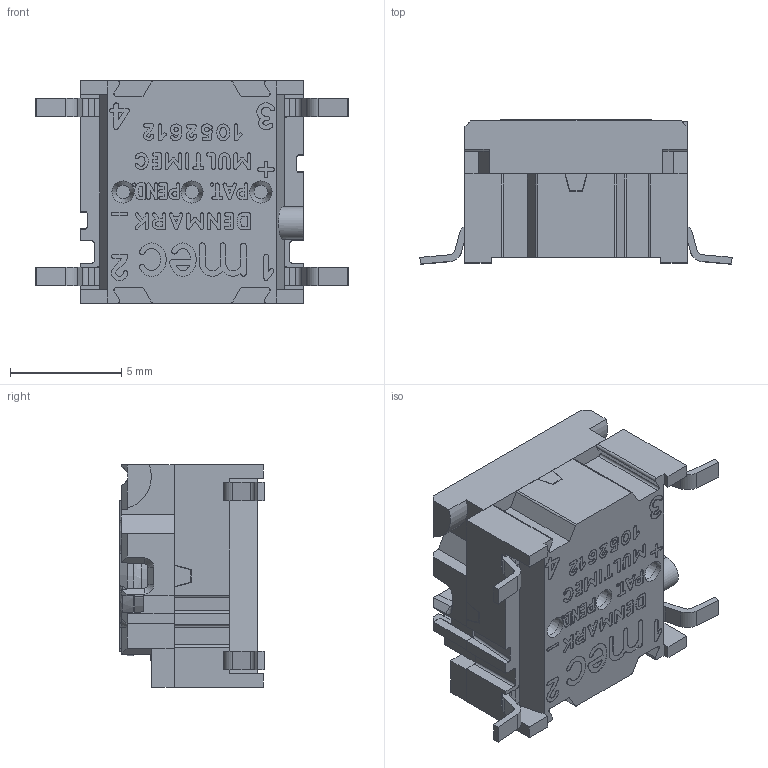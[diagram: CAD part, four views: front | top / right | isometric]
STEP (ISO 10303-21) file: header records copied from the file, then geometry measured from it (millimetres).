
FILE_DESCRIPTION((''),'2;1');
FILE_NAME('C:\Users\fd.MEC-AS\Desktop\Dan\5GSH9.stp','2012-10-17T15:55:01',('fd'),(''),'Autodesk Inventor 2012','Autodesk Inventor 2012','');
FILE_SCHEMA(('AUTOMOTIVE_DESIGN { 1 0 10303 214 1 1 1 1 }'));
Length unit declared in the file: millimetre
Products named in the file (9): 5GSH9; act; splåg; 26000-HT-hus-smd; 26000-ht-hus; 26120-smd-ben; 26120-terminal-midt; 26050-gummidome; 26100-metaldome
Assembly tree (11 placements, depth 3):
  5GSH9
    act
    splåg
    26000-HT-hus-smd
      26000-ht-hus
      26120-smd-ben  x4
      26120-terminal-midt
    26050-gummidome
    26100-metaldome
Bounding box: 14.05 x 6.5 x 10 mm (x, y, z)
Volume: 460.2 mm3; surface area: 1341.1 mm2
Topology: 11 solids, 11 shells, 1337 faces, 3681 edges, 2431 vertices
Faces by surface type: plane 729, cylinder 506, cone 53, torus 41, sphere 4, bspline 4
Full cylindrical faces by diameter (mm): 0.15 x2, 0.2 x1, 0.306 x1, 0.895 x1, 1 x3, 2.8 x1, 4.726 x1, 6.5 x1, 7.44 x1, 8.7 x1
Entity records: 42159 total; most frequent: CARTESIAN_POINT 8130, DIRECTION 7187, ORIENTED_EDGE 7038, EDGE_CURVE 3519, AXIS2_PLACEMENT_3D 2510, VERTEX_POINT 2347, VECTOR 2167, LINE 2167
